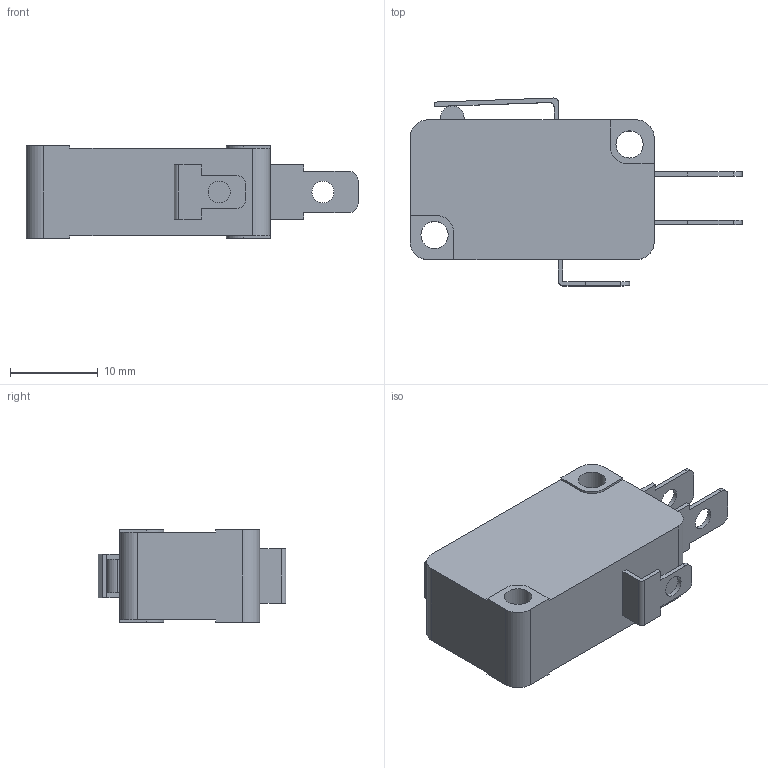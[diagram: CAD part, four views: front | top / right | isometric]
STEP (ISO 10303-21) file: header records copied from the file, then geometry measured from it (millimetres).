
FILE_DESCRIPTION(/* description */ (''),/* implementation_level */ '2;1');
FILE_NAME(/* name */ 'E:\Inventor 2016\제품 외형도\(완료) 리미트 스위치\소형 마이크로 스위치 (V형)\YS L1-15C.stp',/* time_stamp */ '2019-04-09T10:04:18+09:00',/* author */ ('Kim'),/* organization */ (''),/* preprocessor_version */ 'ST-DEVELOPER v16.1',/* originating_system */ 'Autodesk Inventor 2016',/* authorisation */ '');
FILE_SCHEMA (('CONFIG_CONTROL_DESIGN','AUTOMOTIVE_DESIGN { 1 0 10303 214 3 1 1 }'));
Length unit declared in the file: millimetre
Products named in the file (1): YS L1-15C
Bounding box: 37.8 x 21.4 x 10.5 mm (x, y, z)
Volume: 4357.8 mm3; surface area: 2614 mm2
Topology: 2 solids, 2 shells, 92 faces, 246 edges, 164 vertices
Faces by surface type: plane 69, cylinder 23
Full cylindrical faces by diameter (mm): 2.5 x3, 3.1 x2
Entity records: 2942 total; most frequent: CARTESIAN_POINT 498, ORIENTED_EDGE 482, DIRECTION 473, EDGE_CURVE 241, LINE 195, VECTOR 195, VERTEX_POINT 164, AXIS2_PLACEMENT_3D 139
